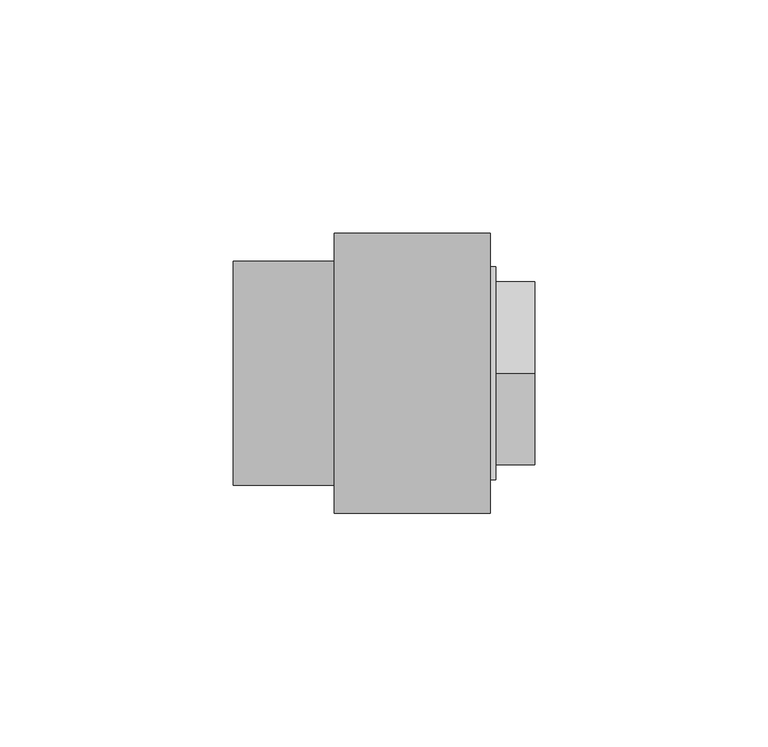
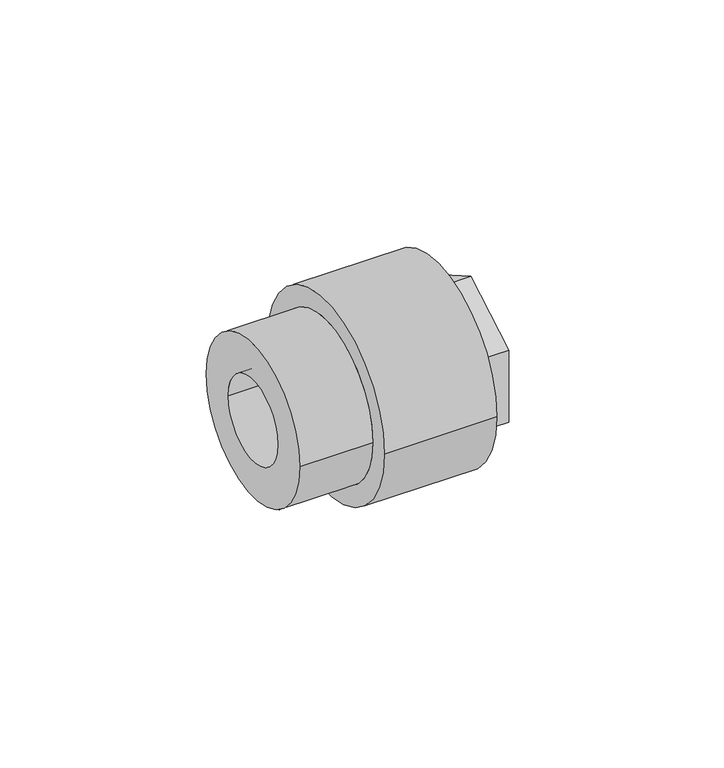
"""IFC4 building model written with IfcOpenShell, lengths in millimetres: pipe fitting geometry, Aquatherm - Fusion Outlet Transition Female : POTABLE BRASS - HEX."""

from ifc_helpers import new_model, si_unit, frame, origin, place, context, project, spatial, polyline, circle_curve, source, transform, mapped, element, save
from ifc_brep_helpers import plane_surface, cylinder_surface, revolved_surface, advanced_brep


def pipe_fitting_e27e703d(model_context):
    return source(origin(), model_context, "Body", "AdvancedBrep", [
        advanced_brep(
        [(25.4635, 15.875, 0.0), (25.4635, -15.875, 0.0), (40.3463125, -15.875, 0.0), (40.3463125, 15.875, 0.0), (25.4635, 16.66875, 0.0), (25.4635, -16.66875, 0.0), (22.2885, 16.66875, 0.0), (22.2885, -16.66875, 0.0), (22.2885, 12.7, 0.0), (22.2885, -12.7, 0.0), (19.1135, 12.7, 0.0), (19.1135, -12.7, 0.0), (19.1135, 24.003, 0.0), (19.1135, -24.003, 0.0), (33.401, 24.003, 0.0), (33.401, -24.003, 0.0), (42.926, 16.66875, 0.0), (42.926, -16.66875, 0.0), (42.926, -19.558, 0.0), (42.926, -19.558, -11.2918166), (42.926, 0.0, -22.5836331), (42.926, 19.558, -11.2918166), (42.926, 19.558, 0.0), (42.926, 19.558, 11.2918166), (42.926, 0.0, 22.5836331), (42.926, -19.558, 11.2918166), (33.401, 22.86, 0.0), (33.401, -22.86, 0.0), (34.591625, 22.86, 0.0), (34.591625, -22.86, 0.0), (34.591625, 0.0, -22.5836331), (34.591625, -19.558, -11.2918166), (34.591625, -19.558, 11.2918166), (34.591625, 0.0, 22.5836331), (34.591625, 19.558, 11.2918166), (34.591625, 19.558, -11.2918166)],
        [
            (0, 1, circle_curve(frame((25.4635, 0.0, 0.0), z_axis=(-1.0, 0.0, 0.0), x_axis=(0.0, -1.0, 0.0)), 15.875)),
            (1, 2),
            (2, 3, circle_curve(frame((40.3463125, 0.0, 0.0), z_axis=(1.0, 0.0, 0.0), x_axis=(0.0, -1.0, 0.0)), 15.875)),
            (3, 0),
            (1, 0, circle_curve(frame((25.4635, 0.0, 0.0), z_axis=(-1.0, 0.0, 0.0), x_axis=(0.0, -1.0, 0.0)), 15.875)),
            (3, 2, circle_curve(frame((40.3463125, 0.0, 0.0), z_axis=(1.0, 0.0, 0.0), x_axis=(0.0, -1.0, 0.0)), 15.875)),
            (0, 4),
            (4, 5, circle_curve(frame((25.4635, 0.0, 0.0), z_axis=(-1.0, 0.0, 0.0), x_axis=(0.0, -1.0, 0.0)), 16.66875)),
            (5, 1),
            (5, 4, circle_curve(frame((25.4635, 0.0, 0.0), z_axis=(-1.0, 0.0, 0.0), x_axis=(0.0, -1.0, 0.0)), 16.66875)),
            (4, 6),
            (6, 7, circle_curve(frame((22.2885, 0.0, 0.0), z_axis=(-1.0, 0.0, 0.0), x_axis=(0.0, -1.0, 0.0)), 16.66875)),
            (7, 5),
            (7, 6, circle_curve(frame((22.2885, 0.0, 0.0), z_axis=(-1.0, 0.0, 0.0), x_axis=(0.0, -1.0, 0.0)), 16.66875)),
            (6, 8),
            (8, 9, circle_curve(frame((22.2885, 0.0, 0.0), z_axis=(-1.0, 0.0, 0.0), x_axis=(0.0, -1.0, 0.0)), 12.7)),
            (9, 7),
            (9, 8, circle_curve(frame((22.2885, 0.0, 0.0), z_axis=(-1.0, 0.0, 0.0), x_axis=(0.0, -1.0, 0.0)), 12.7)),
            (8, 10),
            (10, 11, circle_curve(frame((19.1135, 0.0, 0.0), z_axis=(-1.0, 0.0, 0.0), x_axis=(0.0, -1.0, 0.0)), 12.7)),
            (11, 9),
            (11, 10, circle_curve(frame((19.1135, 0.0, 0.0), z_axis=(-1.0, 0.0, 0.0), x_axis=(0.0, -1.0, 0.0)), 12.7)),
            (10, 12),
            (12, 13, circle_curve(frame((19.1135, 0.0, 0.0), z_axis=(-1.0, 0.0, 0.0), x_axis=(0.0, -1.0, 0.0)), 24.003)),
            (13, 11),
            (13, 12, circle_curve(frame((19.1135, 0.0, 0.0), z_axis=(-1.0, 0.0, 0.0), x_axis=(0.0, -1.0, 0.0)), 24.003)),
            (12, 14),
            (14, 15, circle_curve(frame((33.401, 0.0, 0.0), z_axis=(-1.0, 0.0, 0.0), x_axis=(0.0, -1.0, 0.0)), 24.003)),
            (15, 13),
            (15, 14, circle_curve(frame((33.401, 0.0, 0.0), z_axis=(-1.0, 0.0, 0.0), x_axis=(0.0, -1.0, 0.0)), 24.003)),
            (16, 17, circle_curve(frame((42.926, 0.0, 0.0), z_axis=(-1.0, 0.0, 0.0), x_axis=(0.0, -1.0, 0.0)), 16.66875)),
            (17, 18),
            (18, 19),
            (19, 20),
            (20, 21),
            (21, 22),
            (22, 16),
            (17, 16, circle_curve(frame((42.926, 0.0, 0.0), z_axis=(-1.0, 0.0, 0.0), x_axis=(0.0, -1.0, 0.0)), 16.66875)),
            (22, 23),
            (23, 24),
            (24, 25),
            (25, 18),
            (2, 17),
            (16, 3),
            (14, 26),
            (26, 27, circle_curve(frame((33.401, 0.0, 0.0), z_axis=(-1.0, 0.0, 0.0), x_axis=(0.0, -1.0, 0.0)), 22.86)),
            (27, 15),
            (27, 26, circle_curve(frame((33.401, 0.0, 0.0), z_axis=(-1.0, 0.0, 0.0), x_axis=(0.0, -1.0, 0.0)), 22.86)),
            (26, 28),
            (28, 29, circle_curve(frame((34.591625, 0.0, 0.0), z_axis=(-1.0, 0.0, 0.0), x_axis=(0.0, -1.0, 0.0)), 22.86)),
            (29, 27),
            (29, 28, circle_curve(frame((34.591625, 0.0, 0.0), z_axis=(-1.0, 0.0, 0.0), x_axis=(0.0, -1.0, 0.0)), 22.86)),
            (30, 31),
            (31, 32),
            (32, 33),
            (33, 34),
            (34, 35),
            (35, 30),
            (35, 21),
            (20, 30),
            (34, 23),
            (33, 24),
            (32, 25),
            (31, 19),
        ],
        [
            revolved_surface(polyline([(40.3463125, -15.875, 0.0), (25.4635, -15.875, 0.0)]), (44.7592251, 0.0, 0.0), (1.0, 0.0, 0.0)),
            plane_surface(frame((25.4635, 0.0, 0.0), z_axis=(-1.0, 0.0, 0.0), x_axis=(0.0, -1.0, 0.0))),
            revolved_surface(polyline([(25.4635, -16.66875, 0.0), (22.2885, -16.66875, 0.0)]), (44.7592251, 0.0, 0.0), (1.0, 0.0, 0.0)),
            plane_surface(frame((22.2885, 0.0, 0.0), z_axis=(1.0, 0.0, 0.0), x_axis=(0.0, -1.0, 0.0))),
            revolved_surface(polyline([(22.2885, -12.7, 0.0), (19.1135, -12.7, 0.0)]), (44.7592251, 0.0, 0.0), (1.0, 0.0, 0.0)),
            plane_surface(frame((19.1135, 0.0, 0.0), z_axis=(-1.0, 0.0, 0.0), x_axis=(0.0, -1.0, 0.0))),
            cylinder_surface(frame((44.7592251, 0.0, 0.0), z_axis=(1.0, 0.0, 0.0), x_axis=(0.0, -1.0, 0.0)), 24.003),
            plane_surface(frame((42.926, 0.0, 0.0), z_axis=(1.0, 0.0, 0.0), x_axis=(0.0, -1.0, 0.0))),
            revolved_surface(polyline([(42.926, -16.66875, 0.0), (40.3463125, -15.875, 0.0)]), (44.7592251, 0.0, 0.0), (1.0, 0.0, 0.0)),
            plane_surface(frame((33.401, 0.0, 0.0), z_axis=(1.0, 0.0, 0.0), x_axis=(0.0, -1.0, 0.0))),
            cylinder_surface(frame((44.7592251, 0.0, 0.0), z_axis=(1.0, 0.0, 0.0), x_axis=(0.0, -1.0, 0.0)), 22.86),
            plane_surface(frame((34.591625, 19.558, -11.2918166), z_axis=(1.0000000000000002, 0.0, 0.0), x_axis=(0.0, 0.8660254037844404, 0.4999999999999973))),
            plane_surface(frame((34.591625, 0.0, -22.5836331), z_axis=(0.0, 0.4999999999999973, -0.8660254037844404), x_axis=(1.0, 0.0, 0.0))),
            plane_surface(frame((34.591625, 19.558, -11.2918166), z_axis=(0.0, 1.0, 0.0), x_axis=(1.0, 0.0, 0.0))),
            plane_surface(frame((34.591625, 19.558, 11.2918166), z_axis=(0.0, 0.5000000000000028, 0.8660254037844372), x_axis=(1.0, 0.0, 0.0))),
            plane_surface(frame((34.591625, 0.0, 22.5836331), z_axis=(0.0, -0.49999999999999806, 0.8660254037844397), x_axis=(1.0, 0.0, 0.0))),
            plane_surface(frame((34.591625, -19.558, 11.2918166), z_axis=(0.0, -1.0, 0.0), x_axis=(1.0, 0.0, 0.0))),
            plane_surface(frame((34.591625, -19.558, -11.2918166), z_axis=(0.0, -0.5000000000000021, -0.8660254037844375), x_axis=(1.0, 0.0, 0.0))),
        ],
        [
            (0, [[1, 2, 3, 4]]),
            (0, [[-2, 5, -4, 6]]),
            (1, [[-1, 7, 8, 9]]),
            (1, [[-5, -9, 10, -7]]),
            (2, [[-8, 11, 12, 13]]),
            (2, [[-10, -13, 14, -11]]),
            (3, [[-12, 15, 16, 17]]),
            (3, [[-14, -17, 18, -15]]),
            (4, [[-16, 19, 20, 21]]),
            (4, [[-18, -21, 22, -19]]),
            (5, [[-20, 23, 24, 25]]),
            (5, [[-22, -25, 26, -23]]),
            (6, [[-24, 27, 28, 29]]),
            (6, [[-26, -29, 30, -27]]),
            (7, [[31, 32, 33, 34, 35, 36, 37]]),
            (7, [[38, -37, 39, 40, 41, 42, -32]]),
            (8, [[-3, 43, -31, 44]]),
            (8, [[-6, -44, -38, -43]]),
            (9, [[-28, 45, 46, 47]]),
            (9, [[-30, -47, 48, -45]]),
            (10, [[-46, 49, 50, 51]]),
            (10, [[-48, -51, 52, -49]]),
            (11, [[-50, -52], [53, 54, 55, 56, 57, 58]]),
            (12, [[-58, 59, -35, 60]]),
            (13, [[-57, 61, -39, -36, -59]]),
            (14, [[-56, 62, -40, -61]]),
            (15, [[-55, 63, -41, -62]]),
            (16, [[-54, 64, -33, -42, -63]]),
            (17, [[-53, -60, -34, -64]]),
        ],
    ),
        advanced_brep(
        [(-21.6243243, 24.003, 0.0), (-21.6243243, -24.003, 0.0), (-21.6243243, 12.7, 0.0), (-21.6243243, -12.7, 0.0), (19.1135, 24.003, 0.0), (19.1135, -24.003, 0.0), (19.1135, 12.7, 0.0), (19.1135, -12.7, 0.0), (0.0, 24.003, 0.0), (0.0, -24.003, 0.0), (33.401, 29.972, 0.0), (33.401, -29.972, 0.0), (33.401, 24.003, 0.0), (33.401, -24.003, 0.0), (0.0, 29.972, 0.0), (0.0, -29.972, 0.0)],
        [
            (0, 1, circle_curve(frame((-21.6243243, 0.0, 0.0), z_axis=(-1.0, 0.0, 0.0), x_axis=(0.0, -1.0, 0.0)), 24.003)),
            (1, 0, circle_curve(frame((-21.6243243, 0.0, 0.0), z_axis=(-1.0, 0.0, 0.0), x_axis=(0.0, -1.0, 0.0)), 24.003)),
            (2, 3, circle_curve(frame((-21.6243243, 0.0, 0.0), z_axis=(1.0, 0.0, 0.0), x_axis=(0.0, -1.0, 0.0)), 12.7)),
            (3, 2, circle_curve(frame((-21.6243243, 0.0, 0.0), z_axis=(1.0, 0.0, 0.0), x_axis=(0.0, -1.0, 0.0)), 12.7)),
            (4, 5, circle_curve(frame((19.1135, 0.0, 0.0), z_axis=(1.0, 0.0, 0.0), x_axis=(0.0, -1.0, 0.0)), 24.003)),
            (5, 4, circle_curve(frame((19.1135, 0.0, 0.0), z_axis=(1.0, 0.0, 0.0), x_axis=(0.0, -1.0, 0.0)), 24.003)),
            (6, 7, circle_curve(frame((19.1135, 0.0, 0.0), z_axis=(-1.0, 0.0, 0.0), x_axis=(0.0, -1.0, 0.0)), 12.7)),
            (7, 6, circle_curve(frame((19.1135, 0.0, 0.0), z_axis=(-1.0, 0.0, 0.0), x_axis=(0.0, -1.0, 0.0)), 12.7)),
            (2, 6),
            (7, 3),
            (0, 8),
            (8, 9, circle_curve(frame((0.0, 0.0, 0.0), z_axis=(-1.0, 0.0, 0.0), x_axis=(0.0, -1.0, 0.0)), 24.003)),
            (9, 1),
            (9, 8, circle_curve(frame((0.0, 0.0, 0.0), z_axis=(-1.0, 0.0, 0.0), x_axis=(0.0, -1.0, 0.0)), 24.003)),
            (10, 11, circle_curve(frame((33.401, 0.0, 0.0), z_axis=(1.0, 0.0, 0.0), x_axis=(0.0, -1.0, 0.0)), 29.972)),
            (11, 10, circle_curve(frame((33.401, 0.0, 0.0), z_axis=(1.0, 0.0, 0.0), x_axis=(0.0, -1.0, 0.0)), 29.972)),
            (12, 13, circle_curve(frame((33.401, 0.0, 0.0), z_axis=(-1.0, 0.0, 0.0), x_axis=(0.0, -1.0, 0.0)), 24.003)),
            (13, 12, circle_curve(frame((33.401, 0.0, 0.0), z_axis=(-1.0, 0.0, 0.0), x_axis=(0.0, -1.0, 0.0)), 24.003)),
            (14, 15, circle_curve(frame((0.0, 0.0, 0.0), z_axis=(-1.0, 0.0, 0.0), x_axis=(0.0, -1.0, 0.0)), 29.972)),
            (15, 14, circle_curve(frame((0.0, 0.0, 0.0), z_axis=(-1.0, 0.0, 0.0), x_axis=(0.0, -1.0, 0.0)), 29.972)),
            (13, 5),
            (4, 12),
            (11, 15),
            (14, 10),
        ],
        [
            plane_surface(frame((-21.6243243, -12.7, 0.0), z_axis=(-1.0, 0.0, 0.0), x_axis=(0.0, 0.0, -1.0))),
            plane_surface(frame((19.1135, -12.7, 0.0), z_axis=(1.0, 0.0, 0.0), x_axis=(0.0, 0.0, 1.0))),
            revolved_surface(polyline([(19.1135, -12.7, 0.0), (-21.6243243, -12.7, 0.0)]), (19.1135, 0.0, 0.0), (1.0, 0.0, 0.0)),
            cylinder_surface(frame((0.0, 0.0, 0.0), z_axis=(-1.0, 0.0, 0.0), x_axis=(0.0, -1.0, 0.0)), 24.003),
            plane_surface(frame((33.401, -24.003, 0.0), z_axis=(1.0, 0.0, 0.0), x_axis=(0.0, 0.0, 1.0))),
            plane_surface(frame((0.0, -24.003, 0.0), z_axis=(-1.0, 0.0, 0.0), x_axis=(0.0, 0.0, -1.0))),
            revolved_surface(polyline([(33.401, -24.003, 0.0), (19.1135, -24.003, 0.0)]), (33.401, 0.0, 0.0), (1.0, 0.0, 0.0)),
            cylinder_surface(frame((0.0, 0.0, 0.0), z_axis=(-1.0, 0.0, 0.0), x_axis=(0.0, -1.0, 0.0)), 29.972),
        ],
        [
            (0, [[1, 2], [3, 4]]),
            (1, [[5, 6], [7, 8]]),
            (2, [[-3, 9, -8, 10]]),
            (2, [[-4, -10, -7, -9]]),
            (3, [[-1, 11, 12, 13]]),
            (3, [[-2, -13, 14, -11]]),
            (4, [[15, 16], [17, 18]]),
            (5, [[19, 20], [-12, -14]]),
            (6, [[-18, 21, -5, 22]]),
            (6, [[-17, -22, -6, -21]]),
            (7, [[-16, 23, -19, 24]]),
            (7, [[-15, -24, -20, -23]]),
        ],
    ),
    ])


if __name__ == "__main__":
    model = new_model("IFC4")
    model_context = context("Model", 3, world=origin())
    ifc_project = project(units=[si_unit("LENGTHUNIT", "METRE", prefix="MILLI")], contexts=[model_context])
    site = spatial("IfcSite", under=ifc_project)
    building = spatial("IfcBuilding", under=site)
    placement = place(None, origin())
    pipe_fitting_shape = pipe_fitting_e27e703d(model_context)
    element("IfcPipeFitting", 1, ObjectType="Aquatherm - Fusion Outlet Transition Female : POTABLE BRASS - HEX", at=placement, inside=building, context=model_context, shape_type="MappedRepresentation", body=[
        mapped(pipe_fitting_shape, transform((0.0, 0.0, 0.0), x_axis=(1.0, 0.0, 0.0), y_axis=(0.0, 1.0, 0.0), z_axis=(0.0, 0.0, 1.0))),
    ])
    save(model, "model.ifc")
